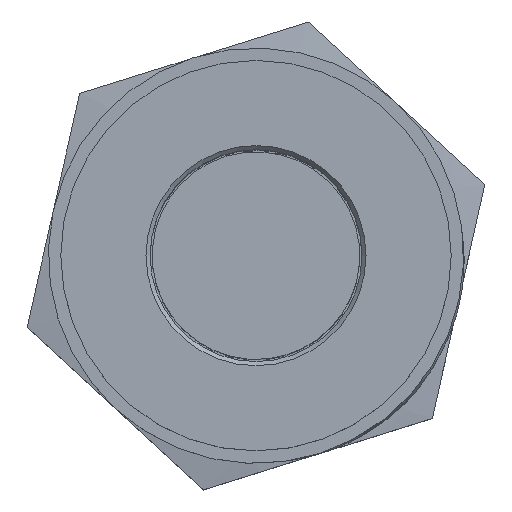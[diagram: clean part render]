
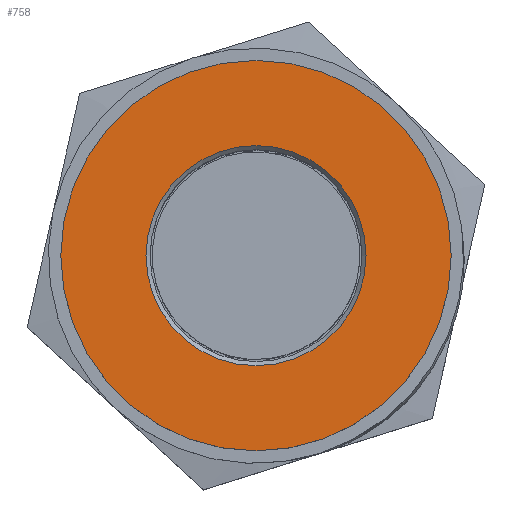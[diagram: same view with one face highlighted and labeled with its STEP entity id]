
A CAD part, top view. The second image highlights one B-rep face of the part: STEP entity #758.
In plain terms, the highlighted planar face has unit normal (0, 0, 1).
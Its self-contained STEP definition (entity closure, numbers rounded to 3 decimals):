
#758 = ADVANCED_FACE( '', ( #1453, #1454 ), #1455, .F. );
#1453 = FACE_BOUND( '', #6845, .T. );
#1454 = FACE_OUTER_BOUND( '', #6846, .T. );
#1455 = PLANE( '', #6847 );
#6845 = EDGE_LOOP( '', ( #8584 ) );
#6846 = EDGE_LOOP( '', ( #8585 ) );
#6847 = AXIS2_PLACEMENT_3D( '', #8586, #8587, #8588 );
#8584 = ORIENTED_EDGE( '', *, *, #9348, .T. );
#8585 = ORIENTED_EDGE( '', *, *, #9132, .F. );
#8586 = CARTESIAN_POINT( '', ( 0., 0., 10.65 ) );
#8587 = DIRECTION( '', ( 0., 0., -1. ) );
#8588 = DIRECTION( '', ( -1., 0., 0. ) );
#9132 = EDGE_CURVE( '', #10095, #10095, #10096, .T. );
#9348 = EDGE_CURVE( '', #10379, #10379, #10380, .T. );
#10095 = VERTEX_POINT( '', #14303 );
#10096 = CIRCLE( '', #14304, 4.7 );
#10379 = VERTEX_POINT( '', #17036 );
#10380 = CIRCLE( '', #17037, 2.65 );
#14303 = CARTESIAN_POINT( '', ( 0., -4.7, 10.65 ) );
#14304 = AXIS2_PLACEMENT_3D( '', #17645, #17646, #17647 );
#17036 = CARTESIAN_POINT( '', ( -2.65, 0., 10.65 ) );
#17037 = AXIS2_PLACEMENT_3D( '', #17844, #17845, #17846 );
#17645 = CARTESIAN_POINT( '', ( 0., 0., 10.65 ) );
#17646 = DIRECTION( '', ( 0., 0., -1. ) );
#17647 = DIRECTION( '', ( 0., -1., 0. ) );
#17844 = CARTESIAN_POINT( '', ( 0., 0., 10.65 ) );
#17845 = DIRECTION( '', ( 0., 0., -1. ) );
#17846 = DIRECTION( '', ( -1., 0., 0. ) );
